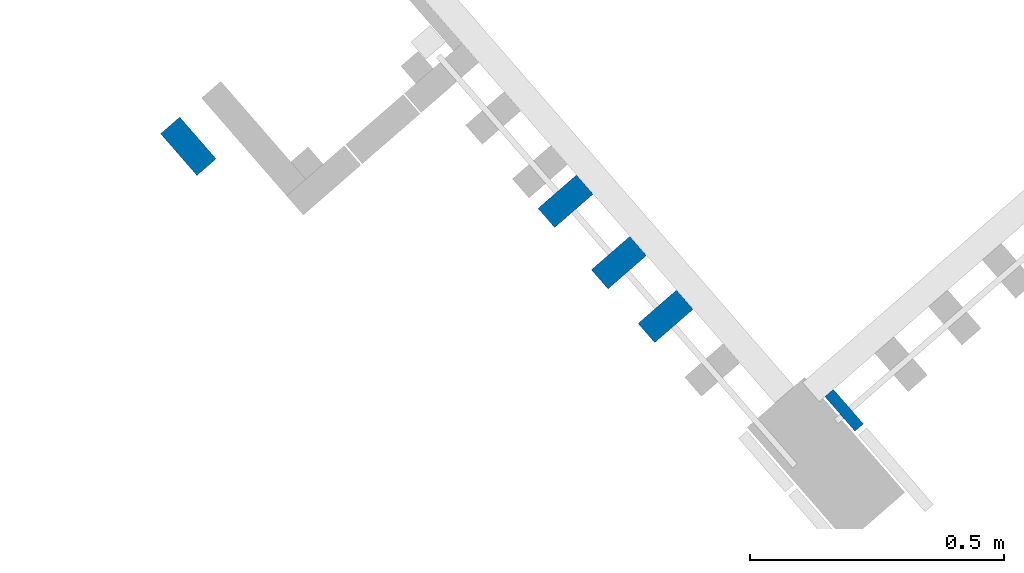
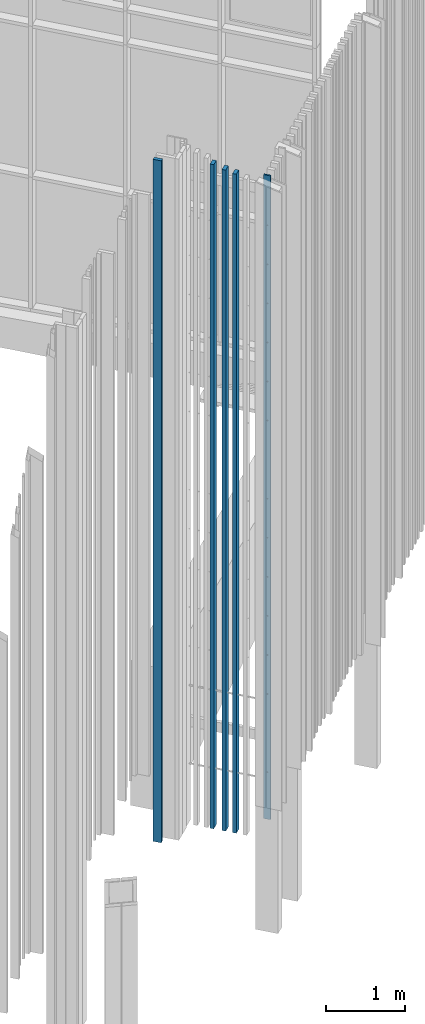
# One storey, part 269 of 390: 5 walls.
"""IFC2X3 building model written with IfcOpenShell, lengths in millimetres."""

import ifcopenshell
import ifcopenshell.guid

model = None  # the IFC model being written
_history = None  # IfcOwnerHistory: only IFC2X3 demands one
_inside = {}  # id of a spatial element -> (the spatial element, [elements in it])
_under = {}  # id of a project, library or spatial element -> (it, [spatial elements below it])
_declared = {}  # id of a project -> (the project, [libraries it declares])
_typed = {}  # id of a type object -> (the type object, [elements of that type])
_made_of = {}  # id of a material, layer set ... -> (it, [elements and type objects made of it])


def new_model(schema):
    """Start an empty IFC model of exactly this schema.

    Asked for "IFC4X3", IfcOpenShell would pick the latest addendum, in which some entities
    have other attributes; the version numbers below select the first issue.
    IFC2X3 requires an IfcOwnerHistory on every rooted entity: one is made here for all.
    """
    global model, _history
    if schema == "IFC4X3":
        model = ifcopenshell.file(schema_version=(4, 3, 0, 0))
    else:
        model = ifcopenshell.file(schema=schema)
    _inside.clear()
    _under.clear()
    _declared.clear()
    _typed.clear()
    _made_of.clear()
    _history = None
    if model.schema == "IFC2X3":
        org = make("IfcOrganization", Name="unknown")
        user = make(
            "IfcPersonAndOrganization",
            ThePerson=make("IfcPerson", FamilyName="unknown"),
            TheOrganization=org,
        )
        app = make(
            "IfcApplication",
            ApplicationDeveloper=org,
            Version="unknown",
            ApplicationFullName="unknown",
            ApplicationIdentifier="unknown",
        )
        _history = make(
            "IfcOwnerHistory",
            OwningUser=user,
            OwningApplication=app,
            ChangeAction="ADDED",
            CreationDate=0,
        )
    return model


def make(cls, **values):
    """One entity of the class cls with the attributes given. An attribute that is None is left unset."""
    return model.create_entity(
        cls, **{name: value for name, value in values.items() if value is not None}
    )


def entity(cls, *values):
    """Any entity or typed value of the class cls, its attributes in the order of the schema. None: left unset."""
    e = model.create_entity(cls)
    for i, value in enumerate(values):
        if value is not None:
            e[i] = value
    return e


def rooted(cls, **values):
    """An entity with a GlobalId (a new one), such as an element, a storey or a relation."""
    return make(cls, GlobalId=ifcopenshell.guid.new(), OwnerHistory=_history, **values)


def si_unit(unit_type, name, prefix=None):
    """IfcSIUnit, for example si_unit("LENGTHUNIT", "METRE", prefix="MILLI")."""
    return make("IfcSIUnit", UnitType=unit_type, Prefix=prefix, Name=name)


def converted_unit(unit_type, name, factor, base, dimensions=None, offset=None):
    """IfcConversionBasedUnit, such as the inch: factor (a typed value) times the base unit."""
    return make(
        "IfcConversionBasedUnit"
        if offset is None
        else "IfcConversionBasedUnitWithOffset",
        ConversionOffset=offset,
        Dimensions=None
        if dimensions is None
        else entity("IfcDimensionalExponents", *dimensions),
        UnitType=unit_type,
        Name=name,
        ConversionFactor=make(
            "IfcMeasureWithUnit", ValueComponent=factor, UnitComponent=base
        ),
    )


def derived_unit(unit_type, elements):
    """IfcDerivedUnit: a product of units, each with its exponent."""
    return make(
        "IfcDerivedUnit",
        Elements=[
            make("IfcDerivedUnitElement", Unit=unit, Exponent=power)
            for unit, power in elements
        ],
        UnitType=unit_type,
    )


def money_unit(currency):
    """IfcMonetaryUnit."""
    return make("IfcMonetaryUnit", Currency=currency)


def assignment(units):
    """IfcUnitAssignment: the units of a project."""
    return None if units is None else make("IfcUnitAssignment", Units=units)


def point(xyz):
    """IfcCartesianPoint."""
    return None if xyz is None else make("IfcCartesianPoint", Coordinates=xyz)


def direction(xyz):
    """IfcDirection."""
    return None if xyz is None else make("IfcDirection", DirectionRatios=xyz)


def frame(location, z_axis=None, x_axis=None):
    """IfcAxis2Placement3D, a coordinate frame: its origin and axes. An axis left out is left unset."""
    return make(
        "IfcAxis2Placement3D",
        Location=point(location),
        Axis=direction(z_axis),
        RefDirection=direction(x_axis),
    )


def origin_with_axes():
    """The frame at (0, 0, 0) with the z axis (0, 0, 1) and the x axis (1, 0, 0) written out."""
    return frame((0.0, 0.0, 0.0), z_axis=(0.0, 0.0, 1.0), x_axis=(1.0, 0.0, 0.0))


def place(relative_to, where):
    """IfcLocalPlacement: puts the frame where relative to a parent placement (None: the world)."""
    return make(
        "IfcLocalPlacement", PlacementRelTo=relative_to, RelativePlacement=where
    )


def context(
    kind, dimensions, precision=None, world=None, true_north=None, identifier=None
):
    """IfcGeometricRepresentationContext, for example the 3D "Model" context."""
    return make(
        "IfcGeometricRepresentationContext",
        ContextIdentifier=identifier,
        ContextType=kind,
        CoordinateSpaceDimension=dimensions,
        Precision=precision,
        WorldCoordinateSystem=world,
        TrueNorth=true_north,
    )


def subcontext(parent, identifier, kind, view, scale=None):
    """IfcGeometricRepresentationSubContext, for example "Body" below "Model"."""
    return make(
        "IfcGeometricRepresentationSubContext",
        ContextIdentifier=identifier,
        ContextType=kind,
        ParentContext=parent,
        TargetScale=scale,
        TargetView=view,
    )


def project(units=None, contexts=None):
    """IfcProject with its units and contexts."""
    return rooted(
        "IfcProject",
        Name="project",
        RepresentationContexts=contexts,
        UnitsInContext=assignment(units),
    )


def spatial(cls, under=None, at=None, **own):
    """A site, building, storey or space (cls), placed at a placement, below another one or the project."""
    s = rooted(cls, ObjectPlacement=at, **own)
    if under is not None:
        _under.setdefault(under.id(), (under, []))[1].append(s)
    return s


def faces_of(points, faces, orient=None, outer=None):
    """IfcFace entities. A face is a list of loops; a loop is a list of indices into points, from 0.

    orient and outer hold one flag for each loop. By default every Orientation is true, the
    first loop of a face is its IfcFaceOuterBound and the others are IfcFaceBound.
    """
    made = []
    for i, loops in enumerate(faces):
        bounds = []
        for j, loop in enumerate(loops):
            is_outer = j == 0 if outer is None else outer[i][j]
            bounds.append(
                make(
                    "IfcFaceOuterBound" if is_outer else "IfcFaceBound",
                    Bound=make("IfcPolyLoop", Polygon=[points[k] for k in loop]),
                    Orientation=True if orient is None else orient[i][j],
                )
            )
        made.append(make("IfcFace", Bounds=bounds))
    return made


def faceted_brep(points, faces, orient=None, outer=None, voids=None):
    """IfcFacetedBrep: a solid bounded by flat faces; with voids (closed shells), ...WithVoids."""
    shared = [point(p) for p in points]
    hull = make("IfcClosedShell", CfsFaces=faces_of(shared, faces, orient, outer))
    if voids is None:
        return make("IfcFacetedBrep", Outer=hull)
    return make(
        "IfcFacetedBrepWithVoids",
        Outer=hull,
        Voids=[
            make(cls, CfsFaces=faces_of(shared, fs, o, b)) for cls, fs, o, b in voids
        ],
    )


def shape(context_of_items, identifier, shape_type, items):
    """IfcShapeRepresentation: the items that make up one representation, for example the "Body"."""
    return make(
        "IfcShapeRepresentation",
        ContextOfItems=context_of_items,
        RepresentationIdentifier=identifier,
        RepresentationType=shape_type,
        Items=items,
    )


def material(Name=None, Category=None):
    """IfcMaterial."""
    return make("IfcMaterial", Name=Name, Category=Category)


def made_of(thing, what):
    """Note that an element or type object is made of a material, layer set ...; save() writes the relation."""
    if what is not None:
        _made_of.setdefault(what.id(), (what, []))[1].append(thing)
    return thing


def type_object(cls, material=None, **own):
    """A type object (cls), such as IfcWallType, which elements share."""
    return made_of(rooted(cls, **own), material)


def element(
    cls,
    number,
    at=None,
    inside=None,
    cuts=None,
    type_object=None,
    material=None,
    context=None,
    identifier="Body",
    shape_type=None,
    held_by="IfcProductDefinitionShape",
    body=None,
    shapes=None,
    **own,
):
    """One element of the class cls, such as IfcWall. Its Tag is "e" and its number.

    at: its placement. inside: the storey or other place that contains it. cuts: it is an
    opening in that element (IfcRelVoidsElement). A single representation is given by context,
    identifier, shape_type and body (its items); several are given by shapes. held_by: the class
    of the entity that holds the representations. save() writes the other relations.
    """
    e = rooted(cls, Tag="e%d" % number, ObjectPlacement=at, **own)
    if body is not None:
        shapes = [shape(context, identifier, shape_type, body)]
    if shapes is not None:
        e.Representation = make(held_by, Representations=shapes)
    if inside is not None:
        _inside.setdefault(inside.id(), (inside, []))[1].append(e)
    if cuts is not None:
        rooted(
            "IfcRelVoidsElement", RelatingBuildingElement=cuts, RelatedOpeningElement=e
        )
    if type_object is not None:
        _typed.setdefault(type_object.id(), (type_object, []))[1].append(e)
    return made_of(e, material)


def aggregate(whole, parts):
    """IfcRelAggregates: a whole, such as a stair, and the parts it consists of."""
    return rooted("IfcRelAggregates", RelatingObject=whole, RelatedObjects=parts)


def save(model, path):
    """Write the relations noted so far, then the file.

    IfcRelAggregates (storeys below a building ...), IfcRelContainedInSpatialStructure (elements
    in a storey), IfcRelDefinesByType, IfcRelAssociatesMaterial and IfcRelDeclares: one each for
    every whole, place, type object, material and project.
    """
    for whole, parts in _under.values():
        aggregate(whole, parts)
    for where, things in _inside.values():
        rooted(
            "IfcRelContainedInSpatialStructure",
            RelatedElements=things,
            RelatingStructure=where,
        )
    for kind, things in _typed.values():
        rooted("IfcRelDefinesByType", RelatedObjects=things, RelatingType=kind)
    for what, things in _made_of.values():
        rooted("IfcRelAssociatesMaterial", RelatedObjects=things, RelatingMaterial=what)
    for by, libraries in _declared.values():
        rooted("IfcRelDeclares", RelatingContext=by, RelatedDefinitions=libraries)
    model.write(path)


model = new_model("IFC2X3")

# Units and contexts
model_context = context("Model", 3, precision=1e-05, world=origin_with_axes(), true_north=direction((0.0, 1.0)))
body_context = subcontext(model_context, "Body", "Model", "MODEL_VIEW")
ifc_project = project(units=[si_unit("LENGTHUNIT", "METRE", prefix="MILLI"), si_unit("AREAUNIT", "SQUARE_METRE"), si_unit("VOLUMEUNIT", "CUBIC_METRE"), converted_unit("PLANEANGLEUNIT", "DEGREE", entity("IfcPlaneAngleMeasure", 0.0174532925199), si_unit("PLANEANGLEUNIT", "RADIAN"), dimensions=[0, 0, 0, 0, 0, 0, 0]), si_unit("SOLIDANGLEUNIT", "STERADIAN"), money_unit("EUR"), converted_unit("TIMEUNIT", "Year", entity("IfcTimeMeasure", 31556926.0), si_unit("TIMEUNIT", "SECOND"), dimensions=[0, 0, 1, 0, 0, 0, 0]), si_unit("MASSUNIT", "GRAM", prefix="KILO"), si_unit("THERMODYNAMICTEMPERATUREUNIT", "DEGREE_CELSIUS"), si_unit("LUMINOUSINTENSITYUNIT", "LUMEN"), si_unit("ENERGYUNIT", "JOULE", prefix="MEGA"), derived_unit("THERMALCONDUCTANCEUNIT", [(si_unit("POWERUNIT", "WATT"), 1), (si_unit("LENGTHUNIT", "METRE"), -1), (si_unit("THERMODYNAMICTEMPERATUREUNIT", "KELVIN"), -1)]), derived_unit("SPECIFICHEATCAPACITYUNIT", [(si_unit("ENERGYUNIT", "JOULE"), 1), (si_unit("MASSUNIT", "GRAM", prefix="KILO"), -1), (si_unit("THERMODYNAMICTEMPERATUREUNIT", "KELVIN"), -1)]), derived_unit("MASSDENSITYUNIT", [(si_unit("MASSUNIT", "GRAM", prefix="KILO"), 1), (si_unit("VOLUMEUNIT", "CUBIC_METRE"), -1)])], contexts=[model_context])

# Site, building, storey
site_placement = place(None, origin_with_axes())
site = spatial("IfcSite", under=ifc_project, at=site_placement, Name="Site", CompositionType="ELEMENT")
building_placement = place(site_placement, origin_with_axes())
building = spatial("IfcBuilding", under=site, at=building_placement, Name="Building", CompositionType="ELEMENT")
storey_placement = place(building_placement, origin_with_axes())
storey = spatial("IfcBuildingStorey", under=building, at=storey_placement, Name="1 korrus", CompositionType="ELEMENT", Elevation=0.0)

# Walls
ifc_material_1 = material(Name="GENEERILINE - VÄLINE VOODER")
wall_type = type_object("IfcWallType", Name="Puitfassaadi ribistik", PredefinedType="NOTDEFINED")
wall_1_placement = place(storey_placement, frame((173477.602121, 93752.2792843, -403.738135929), z_axis=(0.0, 0.0, 1.0), x_axis=(-0.754709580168, -0.656059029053, 0.0)))
element("IfcWall", 1, at=wall_1_placement, inside=storey, type_object=wall_type, material=ifc_material_1, Name="GENEERILINE - VÄLINE VOODER", context=body_context, shape_type="Brep", body=[
    faceted_brep([(11.0000005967, 45.0000090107, 9890.5531397), (11.0000005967, -45.0000090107, 9890.5531397), (11.0000005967, -45.0000090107, 0.0), (11.0000005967, 45.0000090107, 0.0), (11.0000005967, 11.9961003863, 717.738135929), (11.0000005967, -0.00389961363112, 717.738135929), (11.0000005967, -0.00389961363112, 729.738135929), (11.0000005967, 11.9961003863, 729.738135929), (11.0000005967, 11.9961003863, 1917.73813593), (11.0000005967, -0.00389961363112, 1917.73813593), (11.0000005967, -0.00389961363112, 1929.73813593), (11.0000005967, 11.9961003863, 1929.73813593), (11.0000005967, 11.9961003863, 2517.73813593), (11.0000005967, -0.00389961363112, 2517.73813593), (11.0000005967, -0.00389961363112, 2529.73813593), (11.0000005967, 11.9961003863, 2529.73813593), (11.0000005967, 11.9961003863, 3117.73813593), (11.0000005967, -0.00389961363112, 3117.73813593), (11.0000005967, -0.00389961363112, 3129.73813593), (11.0000005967, 11.9961003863, 3129.73813593), (11.0000005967, 11.9961003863, 3717.73813593), (11.0000005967, -0.00389961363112, 3717.73813593), (11.0000005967, -0.00389961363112, 3729.73813593), (11.0000005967, 11.9961003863, 3729.73813593), (11.0000005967, 11.9961003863, 4317.73813593), (11.0000005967, -0.00389961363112, 4317.73813593), (11.0000005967, -0.00389961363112, 4329.73813593), (11.0000005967, 11.9961003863, 4329.73813593), (11.0000005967, 11.9961003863, 4917.73813593), (11.0000005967, -0.00389961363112, 4917.73813593), (11.0000005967, -0.00389961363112, 4929.73813593), (11.0000005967, 11.9961003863, 4929.73813593), (11.0000005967, 11.9961003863, 6117.73813593), (11.0000005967, -0.00389961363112, 6117.73813593), (11.0000005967, -0.00389961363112, 6129.73813593), (11.0000005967, 11.9961003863, 6129.73813593), (11.0000005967, 11.9961003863, 6717.73813593), (11.0000005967, -0.00389961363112, 6717.73813593), (11.0000005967, -0.00389961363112, 6729.73813593), (11.0000005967, 11.9961003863, 6729.73813593), (11.0000005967, 11.9961003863, 7317.73813593), (11.0000005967, -0.00389961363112, 7317.73813593), (11.0000005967, -0.00389961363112, 7329.73813593), (11.0000005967, 11.9961003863, 7329.73813593), (11.0000005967, 11.9961003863, 7917.73813593), (11.0000005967, -0.00389961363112, 7917.73813593), (11.0000005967, -0.00389961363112, 7929.73813593), (11.0000005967, 11.9961003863, 7929.73813593), (11.0000005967, 11.9961003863, 8517.73813593), (11.0000005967, -0.00389961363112, 8517.73813593), (11.0000005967, -0.00389961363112, 8529.73813593), (11.0000005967, 11.9961003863, 8529.73813593), (11.0000005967, 11.9961003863, 9117.73813593), (11.0000005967, -0.00389961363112, 9117.73813593), (11.0000005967, -0.00389961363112, 9129.73813593), (11.0000005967, 11.9961003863, 9129.73813593), (-11.0000005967, 45.0000090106, 9890.5531397), (-11.0000005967, -45.0000090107, 9890.5531397), (-11.0000005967, -45.0000090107, 0.0), (-11.0000005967, 45.0000090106, 0.0), (-11.0000005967, 11.9961108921, 717.738135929), (-11.0000005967, -0.00388910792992, 717.738135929), (-11.0000005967, -0.00388910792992, 729.738135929), (-11.0000005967, 11.9961108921, 729.738135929), (-11.0000005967, 11.9961108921, 1917.73813593), (-11.0000005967, -0.00388910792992, 1917.73813593), (-11.0000005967, -0.00388910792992, 1929.73813593), (-11.0000005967, 11.9961108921, 1929.73813593), (-11.0000005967, 11.9961108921, 2517.73813593), (-11.0000005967, -0.00388910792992, 2517.73813593), (-11.0000005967, -0.00388910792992, 2529.73813593), (-11.0000005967, 11.9961108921, 2529.73813593), (-11.0000005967, 11.9961108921, 3117.73813593), (-11.0000005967, -0.00388910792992, 3117.73813593), (-11.0000005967, -0.00388910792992, 3129.73813593), (-11.0000005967, 11.9961108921, 3129.73813593), (-11.0000005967, 11.9961108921, 3717.73813593), (-11.0000005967, -0.00388910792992, 3717.73813593), (-11.0000005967, -0.00388910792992, 3729.73813593), (-11.0000005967, 11.9961108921, 3729.73813593), (-11.0000005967, 11.9961108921, 4317.73813593), (-11.0000005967, -0.00388910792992, 4317.73813593), (-11.0000005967, -0.00388910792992, 4329.73813593), (-11.0000005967, 11.9961108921, 4329.73813593), (-11.0000005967, 11.9961108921, 4917.73813593), (-11.0000005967, -0.00388910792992, 4917.73813593), (-11.0000005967, -0.00388910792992, 4929.73813593), (-11.0000005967, 11.9961108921, 4929.73813593), (-11.0000005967, 11.9961108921, 6117.73813593), (-11.0000005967, -0.00388910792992, 6117.73813593), (-11.0000005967, -0.00388910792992, 6129.73813593), (-11.0000005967, 11.9961108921, 6129.73813593), (-11.0000005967, 11.9961108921, 6717.73813593), (-11.0000005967, -0.00388910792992, 6717.73813593), (-11.0000005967, -0.00388910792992, 6729.73813593), (-11.0000005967, 11.9961108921, 6729.73813593), (-11.0000005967, 11.9961108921, 7317.73813593), (-11.0000005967, -0.00388910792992, 7317.73813593), (-11.0000005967, -0.00388910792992, 7329.73813593), (-11.0000005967, 11.9961108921, 7329.73813593), (-11.0000005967, 11.9961108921, 7917.73813593), (-11.0000005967, -0.00388910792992, 7917.73813593), (-11.0000005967, -0.00388910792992, 7929.73813593), (-11.0000005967, 11.9961108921, 7929.73813593), (-11.0000005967, 11.9961108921, 8517.73813593), (-11.0000005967, -0.00388910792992, 8517.73813593), (-11.0000005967, -0.00388910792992, 8529.73813593), (-11.0000005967, 11.9961108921, 8529.73813593), (-11.0000005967, 11.9961108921, 9117.73813593), (-11.0000005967, -0.00388910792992, 9117.73813593), (-11.0000005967, -0.00388910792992, 9129.73813593), (-11.0000005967, 11.9961108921, 9129.73813593)], [[[0, 1, 2, 3], [4, 5, 6, 7], [8, 9, 10, 11], [12, 13, 14, 15], [16, 17, 18, 19], [20, 21, 22, 23], [24, 25, 26, 27], [28, 29, 30, 31], [32, 33, 34, 35], [36, 37, 38, 39], [40, 41, 42, 43], [44, 45, 46, 47], [48, 49, 50, 51], [52, 53, 54, 55]], [[0, 56, 57, 1]], [[1, 57, 58, 2]], [[3, 2, 58, 59]], [[56, 0, 3, 59]], [[4, 60, 61, 5]], [[5, 61, 62, 6]], [[6, 62, 63, 7]], [[7, 63, 60, 4]], [[8, 64, 65, 9]], [[9, 65, 66, 10]], [[10, 66, 67, 11]], [[11, 67, 64, 8]], [[12, 68, 69, 13]], [[13, 69, 70, 14]], [[14, 70, 71, 15]], [[15, 71, 68, 12]], [[16, 72, 73, 17]], [[17, 73, 74, 18]], [[18, 74, 75, 19]], [[19, 75, 72, 16]], [[20, 76, 77, 21]], [[21, 77, 78, 22]], [[22, 78, 79, 23]], [[23, 79, 76, 20]], [[24, 80, 81, 25]], [[25, 81, 82, 26]], [[26, 82, 83, 27]], [[27, 83, 80, 24]], [[28, 84, 85, 29]], [[29, 85, 86, 30]], [[30, 86, 87, 31]], [[31, 87, 84, 28]], [[32, 88, 89, 33]], [[33, 89, 90, 34]], [[34, 90, 91, 35]], [[35, 91, 88, 32]], [[36, 92, 93, 37]], [[37, 93, 94, 38]], [[38, 94, 95, 39]], [[39, 95, 92, 36]], [[40, 96, 97, 41]], [[41, 97, 98, 42]], [[42, 98, 99, 43]], [[43, 99, 96, 40]], [[44, 100, 101, 45]], [[45, 101, 102, 46]], [[46, 102, 103, 47]], [[47, 103, 100, 44]], [[48, 104, 105, 49]], [[49, 105, 106, 50]], [[50, 106, 107, 51]], [[51, 107, 104, 48]], [[52, 108, 109, 53]], [[53, 109, 110, 54]], [[54, 110, 111, 55]], [[55, 111, 108, 52]], [[57, 56, 59, 58], [62, 61, 60, 63], [66, 65, 64, 67], [70, 69, 68, 71], [74, 73, 72, 75], [78, 77, 76, 79], [82, 81, 80, 83], [86, 85, 84, 87], [90, 89, 88, 91], [94, 93, 92, 95], [98, 97, 96, 99], [102, 101, 100, 103], [106, 105, 104, 107], [110, 109, 108, 111]]]),
])
ifc_material_2 = material(Name="Site specified")
wall_2_placement = place(storey_placement, frame((172187.328494, 94271.6898529, -609.196542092), z_axis=(0.0, 0.0, 1.0), x_axis=(-0.754709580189, -0.65605902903, 0.0)))
element("IfcWall", 2, at=wall_2_placement, inside=storey, type_object=wall_type, material=ifc_material_2, Name="Site specified", context=body_context, shape_type="Brep", body=[
    faceted_brep([(-25.0, -54.5, 10474.1965421), (-25.0, -54.5, 0.0), (24.9999999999, -54.5, 0.0), (24.9999999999, -54.5, 10474.1965421), (-25.0, 54.5, 10474.1965421), (-25.0, 54.5, 0.0), (25.0, 54.5, 0.0), (25.0, 54.5, 10474.1965421)], [[[0, 1, 2, 3]], [[4, 5, 1, 0]], [[2, 1, 5, 6]], [[3, 2, 6, 7]], [[4, 0, 3, 7]], [[7, 6, 5, 4]]]),
])
wall_3_placement = place(storey_placement, frame((172929.363538, 94163.4631484, -578.61886405), z_axis=(0.0, 0.0, 1.0), x_axis=(-0.656059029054, 0.754709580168, 0.0)))
element("IfcWall", 3, at=wall_3_placement, inside=storey, type_object=wall_type, material=ifc_material_1, Name="GENEERILINE - VÄLINE VOODER", context=body_context, shape_type="Brep", body=[
    faceted_brep([(25.0, 50.0, 10200.7873855), (25.0, -50.0, 10200.7873855), (25.0, -50.0, 0.0), (25.0, 50.0, 0.0), (25.0, 6.75604496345, 904.61886405), (25.0, 6.75604496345, 892.61886405), (25.0, -5.24395503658, 892.61886405), (25.0, -5.24395503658, 904.61886405), (25.0, 6.75604496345, 2104.61886405), (25.0, 6.75604496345, 2092.61886405), (25.0, -5.24395503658, 2092.61886405), (25.0, -5.24395503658, 2104.61886405), (25.0, 6.75604496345, 2704.61886405), (25.0, 6.75604496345, 2692.61886405), (25.0, -5.24395503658, 2692.61886405), (25.0, -5.24395503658, 2704.61886405), (25.0, 6.75604496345, 3304.61886405), (25.0, 6.75604496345, 3292.61886405), (25.0, -5.24395503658, 3292.61886405), (25.0, -5.24395503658, 3304.61886405), (25.0, 6.75604496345, 3904.61886405), (25.0, 6.75604496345, 3892.61886405), (25.0, -5.24395503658, 3892.61886405), (25.0, -5.24395503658, 3904.61886405), (25.0, 6.75604496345, 4504.61886405), (25.0, 6.75604496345, 4492.61886405), (25.0, -5.24395503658, 4492.61886405), (25.0, -5.24395503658, 4504.61886405), (25.0, 6.75604496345, 5104.61886405), (25.0, 6.75604496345, 5092.61886405), (25.0, -5.24395503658, 5092.61886405), (25.0, -5.24395503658, 5104.61886405), (25.0, 6.75604496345, 6304.61886405), (25.0, 6.75604496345, 6292.61886405), (25.0, -5.24395503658, 6292.61886405), (25.0, -5.24395503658, 6304.61886405), (25.0, 6.75604496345, 6904.61886405), (25.0, 6.75604496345, 6892.61886405), (25.0, -5.24395503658, 6892.61886405), (25.0, -5.24395503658, 6904.61886405), (25.0, 6.75604496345, 7504.61886405), (25.0, 6.75604496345, 7492.61886405), (25.0, -5.24395503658, 7492.61886405), (25.0, -5.24395503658, 7504.61886405), (25.0, 6.75604496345, 8104.61886405), (25.0, 6.75604496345, 8092.61886405), (25.0, -5.24395503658, 8092.61886405), (25.0, -5.24395503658, 8104.61886405), (25.0, 6.75604496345, 8704.61886405), (25.0, 6.75604496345, 8692.61886405), (25.0, -5.24395503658, 8692.61886405), (25.0, -5.24395503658, 8704.61886405), (25.0, 6.75604496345, 9304.61886405), (25.0, 6.75604496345, 9292.61886405), (25.0, -5.24395503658, 9292.61886405), (25.0, -5.24395503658, 9304.61886405), (-25.0, 50.0, 10200.7873855), (-25.0, -50.0, 10200.7873855), (-25.0, -50.0, 0.0), (-25.0, 50.0, 0.0), (-25.0, 6.7560688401, 904.61886405), (-25.0, 6.7560688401, 892.61886405), (-25.0, -5.24393115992, 892.61886405), (-25.0, -5.24393115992, 904.61886405), (-25.0, 6.7560688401, 2104.61886405), (-25.0, 6.7560688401, 2092.61886405), (-25.0, -5.24393115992, 2092.61886405), (-25.0, -5.24393115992, 2104.61886405), (-25.0, 6.7560688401, 2704.61886405), (-25.0, 6.7560688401, 2692.61886405), (-25.0, -5.24393115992, 2692.61886405), (-25.0, -5.24393115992, 2704.61886405), (-25.0, 6.7560688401, 3304.61886405), (-25.0, 6.7560688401, 3292.61886405), (-25.0, -5.24393115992, 3292.61886405), (-25.0, -5.24393115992, 3304.61886405), (-25.0, 6.7560688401, 3904.61886405), (-25.0, 6.7560688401, 3892.61886405), (-25.0, -5.24393115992, 3892.61886405), (-25.0, -5.24393115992, 3904.61886405), (-25.0, 6.7560688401, 4504.61886405), (-25.0, 6.7560688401, 4492.61886405), (-25.0, -5.24393115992, 4492.61886405), (-25.0, -5.24393115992, 4504.61886405), (-25.0, 6.7560688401, 5104.61886405), (-25.0, 6.7560688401, 5092.61886405), (-25.0, -5.24393115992, 5092.61886405), (-25.0, -5.24393115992, 5104.61886405), (-25.0, 6.7560688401, 6304.61886405), (-25.0, 6.7560688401, 6292.61886405), (-25.0, -5.24393115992, 6292.61886405), (-25.0, -5.24393115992, 6304.61886405), (-25.0, 6.7560688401, 6904.61886405), (-25.0, 6.7560688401, 6892.61886405), (-25.0, -5.24393115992, 6892.61886405), (-25.0, -5.24393115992, 6904.61886405), (-25.0, 6.7560688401, 7504.61886405), (-25.0, 6.7560688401, 7492.61886405), (-25.0, -5.24393115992, 7492.61886405), (-25.0, -5.24393115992, 7504.61886405), (-25.0, 6.7560688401, 8104.61886405), (-25.0, 6.7560688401, 8092.61886405), (-25.0, -5.24393115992, 8092.61886405), (-25.0, -5.24393115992, 8104.61886405), (-25.0, 6.7560688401, 8704.61886405), (-25.0, 6.7560688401, 8692.61886405), (-25.0, -5.24393115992, 8692.61886405), (-25.0, -5.24393115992, 8704.61886405), (-25.0, 6.7560688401, 9304.61886405), (-25.0, 6.7560688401, 9292.61886405), (-25.0, -5.24393115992, 9292.61886405), (-25.0, -5.24393115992, 9304.61886405)], [[[0, 1, 2, 3], [4, 5, 6, 7], [8, 9, 10, 11], [12, 13, 14, 15], [16, 17, 18, 19], [20, 21, 22, 23], [24, 25, 26, 27], [28, 29, 30, 31], [32, 33, 34, 35], [36, 37, 38, 39], [40, 41, 42, 43], [44, 45, 46, 47], [48, 49, 50, 51], [52, 53, 54, 55]], [[0, 56, 57, 1]], [[1, 57, 58, 2]], [[3, 2, 58, 59]], [[56, 0, 3, 59]], [[4, 60, 61, 5]], [[5, 61, 62, 6]], [[6, 62, 63, 7]], [[7, 63, 60, 4]], [[8, 64, 65, 9]], [[9, 65, 66, 10]], [[10, 66, 67, 11]], [[11, 67, 64, 8]], [[12, 68, 69, 13]], [[13, 69, 70, 14]], [[14, 70, 71, 15]], [[15, 71, 68, 12]], [[16, 72, 73, 17]], [[17, 73, 74, 18]], [[18, 74, 75, 19]], [[19, 75, 72, 16]], [[20, 76, 77, 21]], [[21, 77, 78, 22]], [[22, 78, 79, 23]], [[23, 79, 76, 20]], [[24, 80, 81, 25]], [[25, 81, 82, 26]], [[26, 82, 83, 27]], [[27, 83, 80, 24]], [[28, 84, 85, 29]], [[29, 85, 86, 30]], [[30, 86, 87, 31]], [[31, 87, 84, 28]], [[32, 88, 89, 33]], [[33, 89, 90, 34]], [[34, 90, 91, 35]], [[35, 91, 88, 32]], [[36, 92, 93, 37]], [[37, 93, 94, 38]], [[38, 94, 95, 39]], [[39, 95, 92, 36]], [[40, 96, 97, 41]], [[41, 97, 98, 42]], [[42, 98, 99, 43]], [[43, 99, 96, 40]], [[44, 100, 101, 45]], [[45, 101, 102, 46]], [[46, 102, 103, 47]], [[47, 103, 100, 44]], [[48, 104, 105, 49]], [[49, 105, 106, 50]], [[50, 106, 107, 51]], [[51, 107, 104, 48]], [[52, 108, 109, 53]], [[53, 109, 110, 54]], [[54, 110, 111, 55]], [[55, 111, 108, 52]], [[57, 56, 59, 58], [62, 61, 60, 63], [66, 65, 64, 67], [70, 69, 68, 71], [74, 73, 72, 75], [78, 77, 76, 79], [82, 81, 80, 83], [86, 85, 84, 87], [90, 89, 88, 91], [94, 93, 92, 95], [98, 97, 96, 99], [102, 101, 100, 103], [106, 105, 104, 107], [110, 109, 108, 111]]]),
])
wall_4_placement = place(storey_placement, frame((173034.332733, 94042.7093792, -578.61886405), z_axis=(0.0, 0.0, 1.0), x_axis=(-0.656059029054, 0.754709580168, 0.0)))
element("IfcWall", 4, at=wall_4_placement, inside=storey, type_object=wall_type, material=ifc_material_1, Name="GENEERILINE - VÄLINE VOODER", context=body_context, shape_type="Brep", body=[
    faceted_brep([(25.0, 50.0001198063, 10153.6368523), (25.0, -50.0001198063, 10153.6368523), (25.0, -50.0001198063, 0.0), (25.0, 50.0001198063, 0.0), (25.0, 6.75577793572, 904.61886405), (25.0, 6.75577793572, 892.61886405), (25.0, -5.24422206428, 892.61886405), (25.0, -5.24422206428, 904.61886405), (25.0, 6.75577793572, 2104.61886405), (25.0, 6.75577793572, 2092.61886405), (25.0, -5.24422206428, 2092.61886405), (25.0, -5.24422206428, 2104.61886405), (25.0, 6.75577793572, 2704.61886405), (25.0, 6.75577793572, 2692.61886405), (25.0, -5.24422206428, 2692.61886405), (25.0, -5.24422206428, 2704.61886405), (25.0, 6.75577793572, 3304.61886405), (25.0, 6.75577793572, 3292.61886405), (25.0, -5.24422206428, 3292.61886405), (25.0, -5.24422206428, 3304.61886405), (25.0, 6.75577793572, 3904.61886405), (25.0, 6.75577793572, 3892.61886405), (25.0, -5.24422206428, 3892.61886405), (25.0, -5.24422206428, 3904.61886405), (25.0, 6.75577793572, 4504.61886405), (25.0, 6.75577793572, 4492.61886405), (25.0, -5.24422206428, 4492.61886405), (25.0, -5.24422206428, 4504.61886405), (25.0, 6.75577793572, 5104.61886405), (25.0, 6.75577793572, 5092.61886405), (25.0, -5.24422206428, 5092.61886405), (25.0, -5.24422206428, 5104.61886405), (25.0, 6.75577793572, 6304.61886405), (25.0, 6.75577793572, 6292.61886405), (25.0, -5.24422206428, 6292.61886405), (25.0, -5.24422206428, 6304.61886405), (25.0, 6.75577793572, 6904.61886405), (25.0, 6.75577793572, 6892.61886405), (25.0, -5.24422206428, 6892.61886405), (25.0, -5.24422206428, 6904.61886405), (25.0, 6.75577793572, 7504.61886405), (25.0, 6.75577793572, 7492.61886405), (25.0, -5.24422206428, 7492.61886405), (25.0, -5.24422206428, 7504.61886405), (25.0, 6.75577793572, 8104.61886405), (25.0, 6.75577793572, 8092.61886405), (25.0, -5.24422206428, 8092.61886405), (25.0, -5.24422206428, 8104.61886405), (25.0, 6.75577793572, 8704.61886405), (25.0, 6.75577793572, 8692.61886405), (25.0, -5.24422206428, 8692.61886405), (25.0, -5.24422206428, 8704.61886405), (25.0, 6.75577793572, 9304.61886405), (25.0, 6.75577793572, 9292.61886405), (25.0, -5.24422206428, 9292.61886405), (25.0, -5.24422206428, 9304.61886405), (-25.0, 50.0001198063, 10153.6368523), (-25.0, -50.0001198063, 10153.6368523), (-25.0, -50.0001198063, 0.0), (-25.0, 50.0001198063, 0.0), (-25.0, 6.75580181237, 904.61886405), (-25.0, 6.75580181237, 892.61886405), (-25.0, -5.24419818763, 892.61886405), (-25.0, -5.24419818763, 904.61886405), (-25.0, 6.75580181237, 2104.61886405), (-25.0, 6.75580181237, 2092.61886405), (-25.0, -5.24419818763, 2092.61886405), (-25.0, -5.24419818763, 2104.61886405), (-25.0, 6.75580181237, 2704.61886405), (-25.0, 6.75580181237, 2692.61886405), (-25.0, -5.24419818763, 2692.61886405), (-25.0, -5.24419818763, 2704.61886405), (-25.0, 6.75580181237, 3304.61886405), (-25.0, 6.75580181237, 3292.61886405), (-25.0, -5.24419818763, 3292.61886405), (-25.0, -5.24419818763, 3304.61886405), (-25.0, 6.75580181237, 3904.61886405), (-25.0, 6.75580181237, 3892.61886405), (-25.0, -5.24419818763, 3892.61886405), (-25.0, -5.24419818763, 3904.61886405), (-25.0, 6.75580181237, 4504.61886405), (-25.0, 6.75580181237, 4492.61886405), (-25.0, -5.24419818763, 4492.61886405), (-25.0, -5.24419818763, 4504.61886405), (-25.0, 6.75580181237, 5104.61886405), (-25.0, 6.75580181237, 5092.61886405), (-25.0, -5.24419818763, 5092.61886405), (-25.0, -5.24419818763, 5104.61886405), (-25.0, 6.75580181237, 6304.61886405), (-25.0, 6.75580181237, 6292.61886405), (-25.0, -5.24419818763, 6292.61886405), (-25.0, -5.24419818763, 6304.61886405), (-25.0, 6.75580181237, 6904.61886405), (-25.0, 6.75580181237, 6892.61886405), (-25.0, -5.24419818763, 6892.61886405), (-25.0, -5.24419818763, 6904.61886405), (-25.0, 6.75580181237, 7504.61886405), (-25.0, 6.75580181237, 7492.61886405), (-25.0, -5.24419818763, 7492.61886405), (-25.0, -5.24419818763, 7504.61886405), (-25.0, 6.75580181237, 8104.61886405), (-25.0, 6.75580181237, 8092.61886405), (-25.0, -5.24419818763, 8092.61886405), (-25.0, -5.24419818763, 8104.61886405), (-25.0, 6.75580181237, 8704.61886405), (-25.0, 6.75580181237, 8692.61886405), (-25.0, -5.24419818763, 8692.61886405), (-25.0, -5.24419818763, 8704.61886405), (-25.0, 6.75580181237, 9304.61886405), (-25.0, 6.75580181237, 9292.61886405), (-25.0, -5.24419818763, 9292.61886405), (-25.0, -5.24419818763, 9304.61886405)], [[[0, 1, 2, 3], [4, 5, 6, 7], [8, 9, 10, 11], [12, 13, 14, 15], [16, 17, 18, 19], [20, 21, 22, 23], [24, 25, 26, 27], [28, 29, 30, 31], [32, 33, 34, 35], [36, 37, 38, 39], [40, 41, 42, 43], [44, 45, 46, 47], [48, 49, 50, 51], [52, 53, 54, 55]], [[0, 56, 57, 1]], [[1, 57, 58, 2]], [[3, 2, 58, 59]], [[56, 0, 3, 59]], [[4, 60, 61, 5]], [[5, 61, 62, 6]], [[6, 62, 63, 7]], [[7, 63, 60, 4]], [[8, 64, 65, 9]], [[9, 65, 66, 10]], [[10, 66, 67, 11]], [[11, 67, 64, 8]], [[12, 68, 69, 13]], [[13, 69, 70, 14]], [[14, 70, 71, 15]], [[15, 71, 68, 12]], [[16, 72, 73, 17]], [[17, 73, 74, 18]], [[18, 74, 75, 19]], [[19, 75, 72, 16]], [[20, 76, 77, 21]], [[21, 77, 78, 22]], [[22, 78, 79, 23]], [[23, 79, 76, 20]], [[24, 80, 81, 25]], [[25, 81, 82, 26]], [[26, 82, 83, 27]], [[27, 83, 80, 24]], [[28, 84, 85, 29]], [[29, 85, 86, 30]], [[30, 86, 87, 31]], [[31, 87, 84, 28]], [[32, 88, 89, 33]], [[33, 89, 90, 34]], [[34, 90, 91, 35]], [[35, 91, 88, 32]], [[36, 92, 93, 37]], [[37, 93, 94, 38]], [[38, 94, 95, 39]], [[39, 95, 92, 36]], [[40, 96, 97, 41]], [[41, 97, 98, 42]], [[42, 98, 99, 43]], [[43, 99, 96, 40]], [[44, 100, 101, 45]], [[45, 101, 102, 46]], [[46, 102, 103, 47]], [[47, 103, 100, 44]], [[48, 104, 105, 49]], [[49, 105, 106, 50]], [[50, 106, 107, 51]], [[51, 107, 104, 48]], [[52, 108, 109, 53]], [[53, 109, 110, 54]], [[54, 110, 111, 55]], [[55, 111, 108, 52]], [[57, 56, 59, 58], [62, 61, 60, 63], [66, 65, 64, 67], [70, 69, 68, 71], [74, 73, 72, 75], [78, 77, 76, 79], [82, 81, 80, 83], [86, 85, 84, 87], [90, 89, 88, 91], [94, 93, 92, 95], [98, 97, 96, 99], [102, 101, 100, 103], [106, 105, 104, 107], [110, 109, 108, 111]]]),
])
wall_5_placement = place(storey_placement, frame((173126.181459, 93937.0504199, -578.61886405), z_axis=(0.0, 0.0, 1.0), x_axis=(-0.656059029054, 0.754709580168, 0.0)))
element("IfcWall", 5, at=wall_5_placement, inside=storey, type_object=wall_type, material=ifc_material_1, Name="GENEERILINE - VÄLINE VOODER", context=body_context, shape_type="Brep", body=[
    faceted_brep([(25.0, 50.0, 10122.2031635), (25.0, -50.0, 10122.2031635), (25.0, -50.0, 0.0), (25.0, 50.0, 0.0), (25.0, 6.75644381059, 904.61886405), (25.0, 6.75644381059, 892.61886405), (25.0, -5.24355618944, 892.61886405), (25.0, -5.24355618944, 904.61886405), (25.0, 6.75644381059, 2104.61886405), (25.0, 6.75644381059, 2092.61886405), (25.0, -5.24355618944, 2092.61886405), (25.0, -5.24355618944, 2104.61886405), (25.0, 6.75644381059, 2704.61886405), (25.0, 6.75644381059, 2692.61886405), (25.0, -5.24355618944, 2692.61886405), (25.0, -5.24355618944, 2704.61886405), (25.0, 6.75644381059, 3304.61886405), (25.0, 6.75644381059, 3292.61886405), (25.0, -5.24355618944, 3292.61886405), (25.0, -5.24355618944, 3304.61886405), (25.0, 6.75644381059, 3904.61886405), (25.0, 6.75644381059, 3892.61886405), (25.0, -5.24355618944, 3892.61886405), (25.0, -5.24355618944, 3904.61886405), (25.0, 6.75644381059, 4504.61886405), (25.0, 6.75644381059, 4492.61886405), (25.0, -5.24355618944, 4492.61886405), (25.0, -5.24355618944, 4504.61886405), (25.0, 6.75644381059, 5104.61886405), (25.0, 6.75644381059, 5092.61886405), (25.0, -5.24355618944, 5092.61886405), (25.0, -5.24355618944, 5104.61886405), (25.0, 6.75644381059, 6304.61886405), (25.0, 6.75644381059, 6292.61886405), (25.0, -5.24355618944, 6292.61886405), (25.0, -5.24355618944, 6304.61886405), (25.0, 6.75644381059, 6904.61886405), (25.0, 6.75644381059, 6892.61886405), (25.0, -5.24355618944, 6892.61886405), (25.0, -5.24355618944, 6904.61886405), (25.0, 6.75644381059, 7504.61886405), (25.0, 6.75644381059, 7492.61886405), (25.0, -5.24355618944, 7492.61886405), (25.0, -5.24355618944, 7504.61886405), (25.0, 6.75644381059, 8104.61886405), (25.0, 6.75644381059, 8092.61886405), (25.0, -5.24355618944, 8092.61886405), (25.0, -5.24355618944, 8104.61886405), (25.0, 6.75644381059, 8704.61886405), (25.0, 6.75644381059, 8692.61886405), (25.0, -5.24355618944, 8692.61886405), (25.0, -5.24355618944, 8704.61886405), (25.0, 6.75644381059, 9304.61886405), (25.0, 6.75644381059, 9292.61886405), (25.0, -5.24355618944, 9292.61886405), (25.0, -5.24355618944, 9304.61886405), (-25.0, 50.0, 10122.2031635), (-25.0, -50.0, 10122.2031635), (-25.0, -50.0, 0.0), (-25.0, 50.0, 0.0), (-25.0, 6.75646768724, 904.61886405), (-25.0, 6.75646768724, 892.61886405), (-25.0, -5.24353231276, 892.61886405), (-25.0, -5.24353231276, 904.61886405), (-25.0, 6.75646768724, 2104.61886405), (-25.0, 6.75646768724, 2092.61886405), (-25.0, -5.24353231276, 2092.61886405), (-25.0, -5.24353231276, 2104.61886405), (-25.0, 6.75646768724, 2704.61886405), (-25.0, 6.75646768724, 2692.61886405), (-25.0, -5.24353231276, 2692.61886405), (-25.0, -5.24353231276, 2704.61886405), (-25.0, 6.75646768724, 3304.61886405), (-25.0, 6.75646768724, 3292.61886405), (-25.0, -5.24353231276, 3292.61886405), (-25.0, -5.24353231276, 3304.61886405), (-25.0, 6.75646768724, 3904.61886405), (-25.0, 6.75646768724, 3892.61886405), (-25.0, -5.24353231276, 3892.61886405), (-25.0, -5.24353231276, 3904.61886405), (-25.0, 6.75646768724, 4504.61886405), (-25.0, 6.75646768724, 4492.61886405), (-25.0, -5.24353231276, 4492.61886405), (-25.0, -5.24353231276, 4504.61886405), (-25.0, 6.75646768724, 5104.61886405), (-25.0, 6.75646768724, 5092.61886405), (-25.0, -5.24353231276, 5092.61886405), (-25.0, -5.24353231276, 5104.61886405), (-25.0, 6.75646768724, 6304.61886405), (-25.0, 6.75646768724, 6292.61886405), (-25.0, -5.24353231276, 6292.61886405), (-25.0, -5.24353231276, 6304.61886405), (-25.0, 6.75646768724, 6904.61886405), (-25.0, 6.75646768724, 6892.61886405), (-25.0, -5.24353231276, 6892.61886405), (-25.0, -5.24353231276, 6904.61886405), (-25.0, 6.75646768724, 7504.61886405), (-25.0, 6.75646768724, 7492.61886405), (-25.0, -5.24353231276, 7492.61886405), (-25.0, -5.24353231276, 7504.61886405), (-25.0, 6.75646768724, 8104.61886405), (-25.0, 6.75646768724, 8092.61886405), (-25.0, -5.24353231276, 8092.61886405), (-25.0, -5.24353231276, 8104.61886405), (-25.0, 6.75646768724, 8704.61886405), (-25.0, 6.75646768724, 8692.61886405), (-25.0, -5.24353231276, 8692.61886405), (-25.0, -5.24353231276, 8704.61886405), (-25.0, 6.75646768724, 9304.61886405), (-25.0, 6.75646768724, 9292.61886405), (-25.0, -5.24353231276, 9292.61886405), (-25.0, -5.24353231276, 9304.61886405)], [[[0, 1, 2, 3], [4, 5, 6, 7], [8, 9, 10, 11], [12, 13, 14, 15], [16, 17, 18, 19], [20, 21, 22, 23], [24, 25, 26, 27], [28, 29, 30, 31], [32, 33, 34, 35], [36, 37, 38, 39], [40, 41, 42, 43], [44, 45, 46, 47], [48, 49, 50, 51], [52, 53, 54, 55]], [[0, 56, 57, 1]], [[1, 57, 58, 2]], [[3, 2, 58, 59]], [[56, 0, 3, 59]], [[4, 60, 61, 5]], [[5, 61, 62, 6]], [[6, 62, 63, 7]], [[7, 63, 60, 4]], [[8, 64, 65, 9]], [[9, 65, 66, 10]], [[10, 66, 67, 11]], [[11, 67, 64, 8]], [[12, 68, 69, 13]], [[13, 69, 70, 14]], [[14, 70, 71, 15]], [[15, 71, 68, 12]], [[16, 72, 73, 17]], [[17, 73, 74, 18]], [[18, 74, 75, 19]], [[19, 75, 72, 16]], [[20, 76, 77, 21]], [[21, 77, 78, 22]], [[22, 78, 79, 23]], [[23, 79, 76, 20]], [[24, 80, 81, 25]], [[25, 81, 82, 26]], [[26, 82, 83, 27]], [[27, 83, 80, 24]], [[28, 84, 85, 29]], [[29, 85, 86, 30]], [[30, 86, 87, 31]], [[31, 87, 84, 28]], [[32, 88, 89, 33]], [[33, 89, 90, 34]], [[34, 90, 91, 35]], [[35, 91, 88, 32]], [[36, 92, 93, 37]], [[37, 93, 94, 38]], [[38, 94, 95, 39]], [[39, 95, 92, 36]], [[40, 96, 97, 41]], [[41, 97, 98, 42]], [[42, 98, 99, 43]], [[43, 99, 96, 40]], [[44, 100, 101, 45]], [[45, 101, 102, 46]], [[46, 102, 103, 47]], [[47, 103, 100, 44]], [[48, 104, 105, 49]], [[49, 105, 106, 50]], [[50, 106, 107, 51]], [[51, 107, 104, 48]], [[52, 108, 109, 53]], [[53, 109, 110, 54]], [[54, 110, 111, 55]], [[55, 111, 108, 52]], [[57, 56, 59, 58], [62, 61, 60, 63], [66, 65, 64, 67], [70, 69, 68, 71], [74, 73, 72, 75], [78, 77, 76, 79], [82, 81, 80, 83], [86, 85, 84, 87], [90, 89, 88, 91], [94, 93, 92, 95], [98, 97, 96, 99], [102, 101, 100, 103], [106, 105, 104, 107], [110, 109, 108, 111]]]),
])

save(model, "model.ifc")
